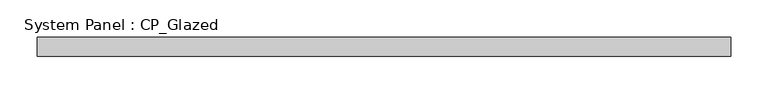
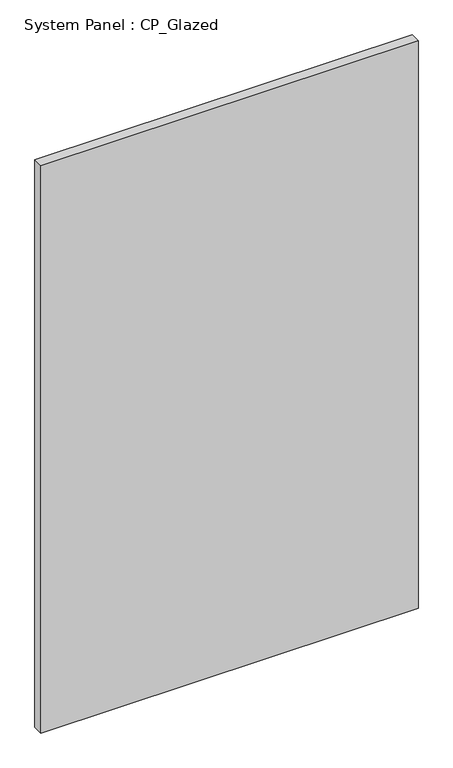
"""IFC4 building model written with IfcOpenShell, lengths in millimetres: plate geometry, System Panel : CP_Glazed."""

from ifc_helpers import new_model, si_unit, origin, origin_with_axes, place, context, project, spatial, polyline, outline, extrude, source, transform, mapped, element, save


def system_panel_cp_glazed_973fe1cd(model_context):
    return source(origin(), model_context, "Body", "SweptSolid", [
        extrude(outline(polyline([(465.1375, 19.05), (-465.1375, 19.05), (-465.1375, 44.45), (465.1375, 44.45), (465.1375, 19.05)])), origin_with_axes(), (0.0, 0.0, 1.0), 1479.55),
    ])


if __name__ == "__main__":
    model = new_model("IFC4")
    model_context = context("Model", 3, world=origin())
    ifc_project = project(units=[si_unit("LENGTHUNIT", "METRE", prefix="MILLI")], contexts=[model_context])
    site = spatial("IfcSite", under=ifc_project)
    building = spatial("IfcBuilding", under=site)
    placement = place(None, origin())
    system_panel_cp_glazed_shape = system_panel_cp_glazed_973fe1cd(model_context)
    element("IfcPlate", 1, ObjectType="System Panel : CP_Glazed", at=placement, inside=building, context=model_context, shape_type="MappedRepresentation", body=[
        mapped(system_panel_cp_glazed_shape, transform((0.0, 0.0, 0.0), x_axis=(1.0, 0.0, 0.0), y_axis=(0.0, 1.0, 0.0), z_axis=(0.0, 0.0, 1.0))),
    ])
    save(model, "model.ifc")
